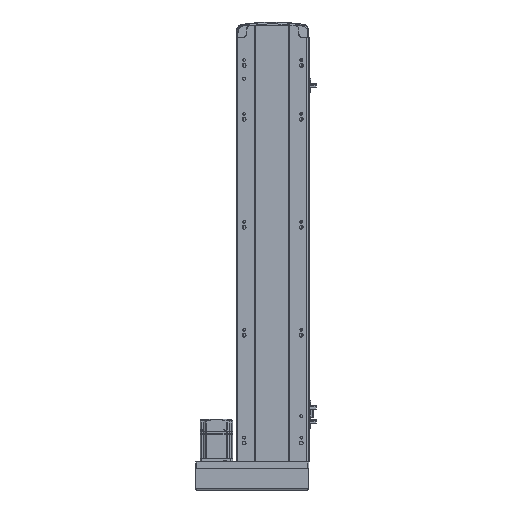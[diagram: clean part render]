
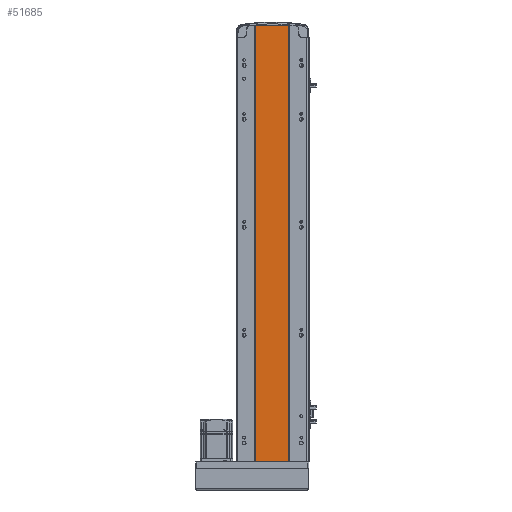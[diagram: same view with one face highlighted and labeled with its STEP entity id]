
A CAD part, front view. The second image highlights one B-rep face of the part: STEP entity #51685.
In plain terms, the highlighted planar face has unit normal (0, -1, 0).
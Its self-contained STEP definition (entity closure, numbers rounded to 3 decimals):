
#3816 = DIRECTION ( 'NONE',  ( 0., 1., 0. ) ) ;
#4525 = CARTESIAN_POINT ( 'NONE',  ( 30., 1., 809. ) ) ;
#4622 = DIRECTION ( 'NONE',  ( 0., 0., -1. ) ) ;
#5540 = ORIENTED_EDGE ( 'NONE', *, *, #46620, .F. ) ;
#8090 = ORIENTED_EDGE ( 'NONE', *, *, #53890, .T. ) ;
#9000 = DIRECTION ( 'NONE',  ( 0., 0., -1. ) ) ;
#10290 = EDGE_CURVE ( 'NONE', #31520, #12920, #12240, .T. ) ;
#11153 = ORIENTED_EDGE ( 'NONE', *, *, #10290, .F. ) ;
#11980 = CARTESIAN_POINT ( 'NONE',  ( -32., 1., 809. ) ) ;
#12240 = LINE ( 'NONE', #35840, #46885 ) ;
#12920 = VERTEX_POINT ( 'NONE', #55995 ) ;
#13158 = CARTESIAN_POINT ( 'NONE',  ( -32., 1., 809. ) ) ;
#15738 = VERTEX_POINT ( 'NONE', #26810 ) ;
#16288 = EDGE_CURVE ( 'NONE', #36652, #12920, #54650, .T. ) ;
#16471 = DIRECTION ( 'NONE',  ( 1., 0., 0. ) ) ;
#17726 = LINE ( 'NONE', #11980, #48847 ) ;
#20005 = VECTOR ( 'NONE', #49358, 1000. ) ;
#21711 = ORIENTED_EDGE ( 'NONE', *, *, #16288, .T. ) ;
#26810 = CARTESIAN_POINT ( 'NONE',  ( -32., 1., 809. ) ) ;
#31520 = VERTEX_POINT ( 'NONE', #4525 ) ;
#32567 = FACE_OUTER_BOUND ( 'NONE', #35596, .T. ) ;
#34523 = AXIS2_PLACEMENT_3D ( 'NONE', #13158, #3816, #39867 ) ;
#35596 = EDGE_LOOP ( 'NONE', ( #21711, #11153, #5540, #8090 ) ) ;
#35840 = CARTESIAN_POINT ( 'NONE',  ( 30., 1., 809. ) ) ;
#36389 = CARTESIAN_POINT ( 'NONE',  ( -32., 1., 0. ) ) ;
#36652 = VERTEX_POINT ( 'NONE', #54899 ) ;
#39867 = DIRECTION ( 'NONE',  ( -1., 0., 0. ) ) ;
#40558 = CARTESIAN_POINT ( 'NONE',  ( -32., 1., 809. ) ) ;
#46620 = EDGE_CURVE ( 'NONE', #15738, #31520, #17726, .T. ) ;
#46885 = VECTOR ( 'NONE', #4622, 1000. ) ;
#48847 = VECTOR ( 'NONE', #16471, 1000. ) ;
#49358 = DIRECTION ( 'NONE',  ( 1., 0., 0. ) ) ;
#51685 = ADVANCED_FACE ( 'NONE', ( #32567 ), #56857, .F. ) ;
#52396 = LINE ( 'NONE', #40558, #53789 ) ;
#53789 = VECTOR ( 'NONE', #9000, 1000. ) ;
#53890 = EDGE_CURVE ( 'NONE', #15738, #36652, #52396, .T. ) ;
#54650 = LINE ( 'NONE', #36389, #20005 ) ;
#54899 = CARTESIAN_POINT ( 'NONE',  ( -32., 1., 0. ) ) ;
#55995 = CARTESIAN_POINT ( 'NONE',  ( 30., 1., 0. ) ) ;
#56857 = PLANE ( 'NONE',  #34523 ) ;
